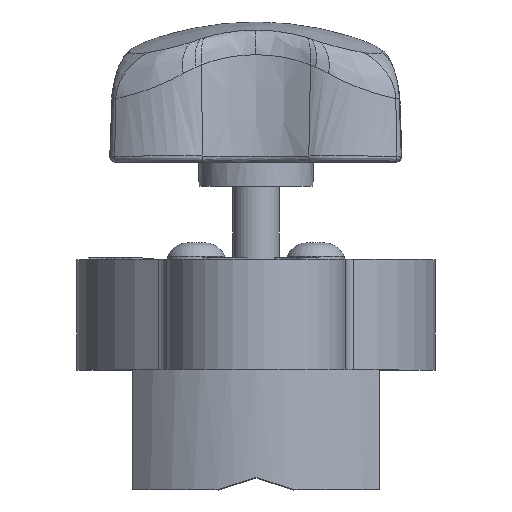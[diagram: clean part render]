
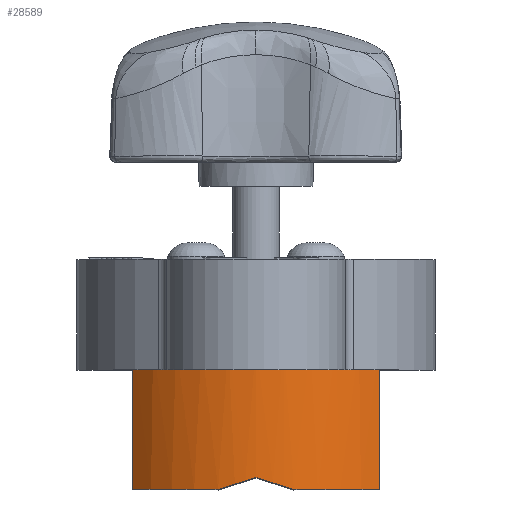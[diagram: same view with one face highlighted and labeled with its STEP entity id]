
A CAD part, top view. The second image highlights one B-rep face of the part: STEP entity #28589.
In plain terms, the highlighted cylindrical face has radius 28 mm (diameter 56 mm), a partial arc.
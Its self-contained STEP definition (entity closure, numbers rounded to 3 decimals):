
#974 = CARTESIAN_POINT ( 'NONE',  ( 22.763, 72.415, 125.38 ) ) ;
#2835 = FACE_OUTER_BOUND ( 'NONE', #36774, .T. ) ;
#8079 = CIRCLE ( 'NONE', #44636, 28. ) ;
#8143 = CARTESIAN_POINT ( 'NONE',  ( 20.625, 73.089, 125.38 ) ) ;
#8894 = CARTESIAN_POINT ( 'NONE',  ( 41.25, 95.589, 116.317 ) ) ;
#9430 = LINE ( 'NONE', #52958, #41711 ) ;
#13980 = AXIS2_PLACEMENT_3D ( 'NONE', #37197, #29760, #89329 ) ;
#14714 = VERTEX_POINT ( 'NONE', #71802 ) ;
#18279 = CARTESIAN_POINT ( 'NONE',  ( 20.625, 71.089, 97.38 ) ) ;
#19752 = ORIENTED_EDGE ( 'NONE', *, *, #79382, .T. ) ;
#23175 = EDGE_CURVE ( 'NONE', #14714, #42715, #8079, .T. ) ;
#23388 = DIRECTION ( 'NONE',  ( 0., -1., 0. ) ) ;
#24745 = DIRECTION ( 'NONE',  ( 0., 0., 1. ) ) ;
#26982 = VERTEX_POINT ( 'NONE', #45362 ) ;
#28589 = ADVANCED_FACE ( 'NONE', ( #2835 ), #49011, .T. ) ;
#29760 = DIRECTION ( 'NONE',  ( 0., 1., 0. ) ) ;
#30199 = AXIS2_PLACEMENT_3D ( 'NONE', #18279, #69802, #56300 ) ;
#30691 = CARTESIAN_POINT ( 'NONE',  ( 18.487, 72.415, 125.38 ) ) ;
#31275 = ORIENTED_EDGE ( 'NONE', *, *, #62979, .T. ) ;
#31419 = CARTESIAN_POINT ( 'NONE',  ( 20.625, 95.589, 97.38 ) ) ;
#32391 = ORIENTED_EDGE ( 'NONE', *, *, #92426, .T. ) ;
#32526 = ORIENTED_EDGE ( 'NONE', *, *, #64129, .F. ) ;
#33117 = DIRECTION ( 'NONE',  ( 0., 1., 0. ) ) ;
#33527 = ORIENTED_EDGE ( 'NONE', *, *, #94404, .T. ) ;
#35065 = EDGE_CURVE ( 'NONE', #14714, #38721, #77500, .T. ) ;
#36577 = VERTEX_POINT ( 'NONE', #64624 ) ;
#36774 = EDGE_LOOP ( 'NONE', ( #32391, #31275, #19752, #32526, #38585, #67310, #33527 ) ) ;
#37197 = CARTESIAN_POINT ( 'NONE',  ( 20.625, 71.089, 97.38 ) ) ;
#38585 = ORIENTED_EDGE ( 'NONE', *, *, #23175, .F. ) ;
#38721 = VERTEX_POINT ( 'NONE', #60443 ) ;
#40199 = CARTESIAN_POINT ( 'NONE',  ( 20.625, 95.589, 97.38 ) ) ;
#40334 = CARTESIAN_POINT ( 'NONE',  ( 0., 95.589, 116.317 ) ) ;
#41507 = CIRCLE ( 'NONE', #30199, 28. ) ;
#41711 = VECTOR ( 'NONE', #76107, 1000. ) ;
#42715 = VERTEX_POINT ( 'NONE', #8894 ) ;
#44636 = AXIS2_PLACEMENT_3D ( 'NONE', #40199, #33117, #24745 ) ;
#45362 = CARTESIAN_POINT ( 'NONE',  ( 41.25, 71.089, 116.317 ) ) ;
#49011 = CYLINDRICAL_SURFACE ( 'NONE', #84383, 28. ) ;
#50352 = CARTESIAN_POINT ( 'NONE',  ( 20.625, 73.089, 125.38 ) ) ;
#52615 = CARTESIAN_POINT ( 'NONE',  ( 16.364, 71.745, 125.136 ) ) ;
#52921 = CARTESIAN_POINT ( 'NONE',  ( 26.968, 71.089, 124.652 ) ) ;
#52958 = CARTESIAN_POINT ( 'NONE',  ( 41.25, 95.589, 116.317 ) ) ;
#56300 = DIRECTION ( 'NONE',  ( 0., 0., 1. ) ) ;
#57622 =( BOUNDED_CURVE ( )  B_SPLINE_CURVE ( 3, ( #50352, #974, #57704, #86686 ),
 .UNSPECIFIED., .F., .F. ) 
 B_SPLINE_CURVE_WITH_KNOTS ( ( 4, 4 ),
 ( 4.712, 4.941 ),
 .UNSPECIFIED. ) 
 CURVE ( )  GEOMETRIC_REPRESENTATION_ITEM ( )  RATIONAL_B_SPLINE_CURVE ( ( 1., 0.996, 0.996, 1. ) ) 
 REPRESENTATION_ITEM ( '' )  );
#57704 = CARTESIAN_POINT ( 'NONE',  ( 24.886, 71.745, 125.136 ) ) ;
#58685 = CARTESIAN_POINT ( 'NONE',  ( 20.625, 73.089, 125.38 ) ) ;
#60443 = CARTESIAN_POINT ( 'NONE',  ( 0., 71.089, 116.317 ) ) ;
#62897 = DIRECTION ( 'NONE',  ( 0., -1., 0. ) ) ;
#62979 = EDGE_CURVE ( 'NONE', #80935, #71916, #57622, .T. ) ;
#64129 = EDGE_CURVE ( 'NONE', #42715, #26982, #9430, .T. ) ;
#64624 = CARTESIAN_POINT ( 'NONE',  ( 14.282, 71.089, 124.652 ) ) ;
#65926 = VECTOR ( 'NONE', #62897, 1000. ) ;
#67310 = ORIENTED_EDGE ( 'NONE', *, *, #35065, .T. ) ;
#68114 = DIRECTION ( 'NONE',  ( 0., 0., -1. ) ) ;
#69802 = DIRECTION ( 'NONE',  ( 0., 1., 0. ) ) ;
#71802 = CARTESIAN_POINT ( 'NONE',  ( 0., 95.589, 116.317 ) ) ;
#71916 = VERTEX_POINT ( 'NONE', #52921 ) ;
#72653 =( BOUNDED_CURVE ( )  B_SPLINE_CURVE ( 3, ( #75120, #52615, #30691, #8143 ),
 .UNSPECIFIED., .F., .F. ) 
 B_SPLINE_CURVE_WITH_KNOTS ( ( 4, 4 ),
 ( 1.342, 1.571 ),
 .UNSPECIFIED. ) 
 CURVE ( )  GEOMETRIC_REPRESENTATION_ITEM ( )  RATIONAL_B_SPLINE_CURVE ( ( 1., 0.996, 0.996, 1. ) ) 
 REPRESENTATION_ITEM ( '' )  );
#75120 = CARTESIAN_POINT ( 'NONE',  ( 14.282, 71.089, 124.652 ) ) ;
#76107 = DIRECTION ( 'NONE',  ( 0., -1., 0. ) ) ;
#77500 = LINE ( 'NONE', #40334, #65926 ) ;
#79382 = EDGE_CURVE ( 'NONE', #71916, #26982, #41507, .T. ) ;
#80935 = VERTEX_POINT ( 'NONE', #58685 ) ;
#84383 = AXIS2_PLACEMENT_3D ( 'NONE', #31419, #23388, #68114 ) ;
#86686 = CARTESIAN_POINT ( 'NONE',  ( 26.968, 71.089, 124.652 ) ) ;
#89329 = DIRECTION ( 'NONE',  ( 0., 0., 1. ) ) ;
#92426 = EDGE_CURVE ( 'NONE', #36577, #80935, #72653, .T. ) ;
#93603 = CIRCLE ( 'NONE', #13980, 28. ) ;
#94404 = EDGE_CURVE ( 'NONE', #38721, #36577, #93603, .T. ) ;
